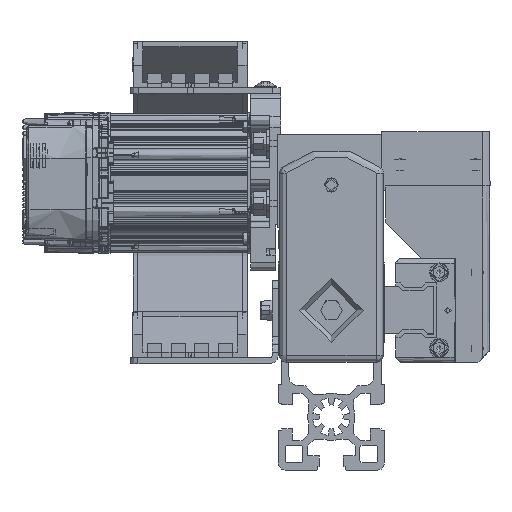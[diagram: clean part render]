
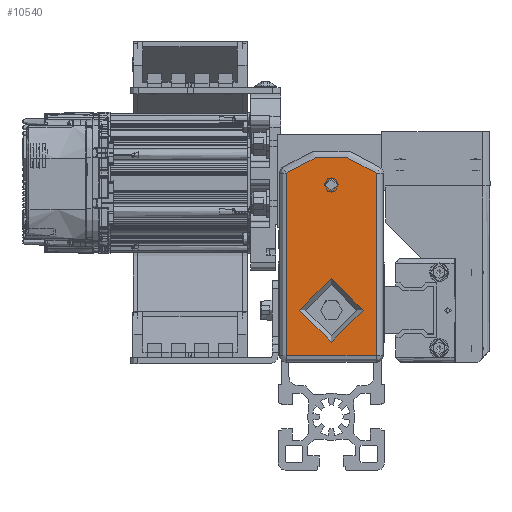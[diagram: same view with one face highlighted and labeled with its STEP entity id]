
A CAD part, front view. The second image highlights one B-rep face of the part: STEP entity #10540.
In plain terms, the highlighted planar face has unit normal (0, -1, 0) as drawn and (1, 0, 0) by its records, which use the part's own axes.
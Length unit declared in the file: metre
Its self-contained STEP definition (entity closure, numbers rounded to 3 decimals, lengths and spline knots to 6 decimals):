
#10540 = ADVANCED_FACE( '', ( #24415, #24416, #24417 ), #24418, .T. );
#24415 = FACE_BOUND( '', #56640, .T. );
#24416 = FACE_OUTER_BOUND( '', #56641, .T. );
#24417 = FACE_BOUND( '', #56642, .T. );
#24418 = PLANE( '', #56643 );
#56640 = EDGE_LOOP( '', ( #130172 ) );
#56641 = EDGE_LOOP( '', ( #130173, #130174, #130175, #130176 ) );
#56642 = EDGE_LOOP( '', ( #130177 ) );
#56643 = AXIS2_PLACEMENT_3D( '', #130178, #130179, #130180 );
#130172 = ORIENTED_EDGE( '', *, *, #172304, .T. );
#130173 = ORIENTED_EDGE( '', *, *, #172305, .T. );
#130174 = ORIENTED_EDGE( '', *, *, #167668, .T. );
#130175 = ORIENTED_EDGE( '', *, *, #170591, .T. );
#130176 = ORIENTED_EDGE( '', *, *, #172306, .T. );
#130177 = ORIENTED_EDGE( '', *, *, #172307, .F. );
#130178 = CARTESIAN_POINT( '', ( 0.00144, -0.022, 0.05928 ) );
#130179 = DIRECTION( '', ( 1., 0., 0. ) );
#130180 = DIRECTION( '', ( 0., 0., -1. ) );
#167668 = EDGE_CURVE( '', #188459, #188464, #188466, .T. );
#170591 = EDGE_CURVE( '', #188464, #193469, #193471, .T. );
#172304 = EDGE_CURVE( '', #196193, #196193, #196194, .T. );
#172305 = EDGE_CURVE( '', #196195, #188459, #196196, .T. );
#172306 = EDGE_CURVE( '', #193469, #196195, #196197, .T. );
#172307 = EDGE_CURVE( '', #196198, #196198, #196199, .T. );
#188459 = VERTEX_POINT( '', #221056 );
#188464 = VERTEX_POINT( '', #221062 );
#188466 = LINE( '', #221064, #221065 );
#193469 = VERTEX_POINT( '', #234605 );
#193471 = CIRCLE( '', #234607, 0.02875 );
#196193 = VERTEX_POINT( '', #242749 );
#196194 = CIRCLE( '', #242750, 0.003 );
#196195 = VERTEX_POINT( '', #242751 );
#196196 = LINE( '', #242752, #242753 );
#196197 = LINE( '', #242754, #242755 );
#196198 = VERTEX_POINT( '', #242756 );
#196199 = CIRCLE( '', #242757, 0.01344 );
#221056 = CARTESIAN_POINT( '', ( 0.00144, 0.019, -0.019 ) );
#221062 = CARTESIAN_POINT( '', ( 0.00144, 0.019, 0.057964 ) );
#221064 = CARTESIAN_POINT( '', ( 0.00144, 0.019, 0.057964 ) );
#221065 = VECTOR( '', #292756, 1. );
#234605 = CARTESIAN_POINT( '', ( 0.00144, -0.019, 0.057964 ) );
#234607 = AXIS2_PLACEMENT_3D( '', #296768, #296769, #296770 );
#242749 = CARTESIAN_POINT( '', ( 0.00144, 0., 0.05593 ) );
#242750 = AXIS2_PLACEMENT_3D( '', #298893, #298894, #298895 );
#242751 = CARTESIAN_POINT( '', ( 0.00144, -0.019, -0.019 ) );
#242752 = CARTESIAN_POINT( '', ( 0.00144, 0.019, -0.019 ) );
#242753 = VECTOR( '', #298896, 1. );
#242754 = CARTESIAN_POINT( '', ( 0.00144, -0.019, -0.019 ) );
#242755 = VECTOR( '', #298897, 1. );
#242756 = CARTESIAN_POINT( '', ( 0.00144, 0., -0.01344 ) );
#242757 = AXIS2_PLACEMENT_3D( '', #298898, #298899, #298900 );
#292756 = DIRECTION( '', ( 0., 0., 1. ) );
#296768 = CARTESIAN_POINT( '', ( 0.00144, 0., 0.036388 ) );
#296769 = DIRECTION( '', ( 1., 0., 0. ) );
#296770 = DIRECTION( '', ( 0., 0., -1. ) );
#298893 = CARTESIAN_POINT( '', ( 0.00144, 0., 0.05293 ) );
#298894 = DIRECTION( '', ( -1., 0., 0. ) );
#298895 = DIRECTION( '', ( 0., 0., 1. ) );
#298896 = DIRECTION( '', ( 0., 1., 0. ) );
#298897 = DIRECTION( '', ( 0., 0., -1. ) );
#298898 = CARTESIAN_POINT( '', ( 0.00144, 0., 0. ) );
#298899 = DIRECTION( '', ( 1., 0., 0. ) );
#298900 = DIRECTION( '', ( 0., 0., -1. ) );
